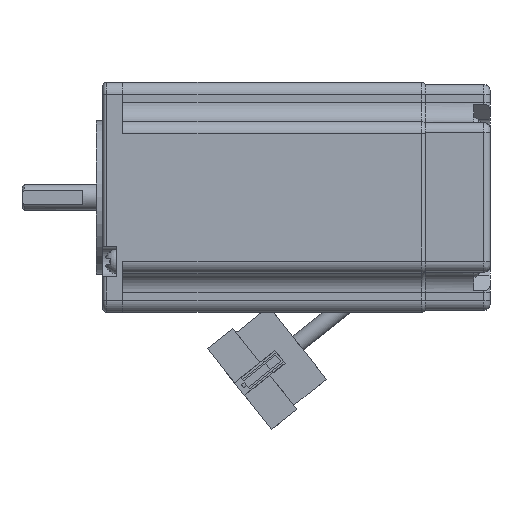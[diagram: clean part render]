
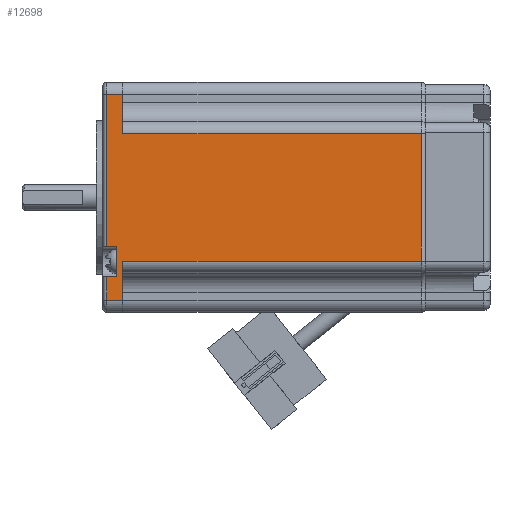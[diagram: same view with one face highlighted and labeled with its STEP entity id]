
A CAD part, front view. The second image highlights one B-rep face of the part: STEP entity #12698.
In plain terms, the highlighted planar face has unit normal (0, -1, 0).
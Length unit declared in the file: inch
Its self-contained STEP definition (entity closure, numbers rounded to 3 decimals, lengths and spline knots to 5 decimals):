
#356=FACE_OUTER_BOUND('',#3722,.T.);
#1246=LINE('',#19190,#2423);
#1247=LINE('',#19194,#2424);
#1248=LINE('',#19196,#2425);
#1249=LINE('',#19198,#2426);
#1250=LINE('',#19200,#2427);
#1251=LINE('',#19202,#2428);
#1252=LINE('',#19204,#2429);
#1253=LINE('',#19206,#2430);
#1254=LINE('',#19208,#2431);
#1255=LINE('',#19210,#2432);
#1256=LINE('',#19212,#2433);
#1257=LINE('',#19213,#2434);
#2423=VECTOR('',#15168,2.91339);
#2424=VECTOR('',#15173,1.24173);
#2425=VECTOR('',#15174,2.91339);
#2426=VECTOR('',#15175,0.38307);
#2427=VECTOR('',#15176,0.15748);
#2428=VECTOR('',#15177,1.48425);
#2429=VECTOR('',#15178,0.09843);
#2430=VECTOR('',#15179,0.29134);
#2431=VECTOR('',#15180,0.09843);
#2432=VECTOR('',#15181,0.23228);
#2433=VECTOR('',#15182,0.15748);
#2434=VECTOR('',#15183,0.38307);
#3722=EDGE_LOOP('',(#8590,#8591,#8592,#8593,#8594,#8595,#8596,#8597,#8598,
#8599,#8600,#8601));
#5381=VERTEX_POINT('',#19187);
#5382=VERTEX_POINT('',#19189);
#5383=VERTEX_POINT('',#19193);
#5384=VERTEX_POINT('',#19195);
#5385=VERTEX_POINT('',#19197);
#5386=VERTEX_POINT('',#19199);
#5387=VERTEX_POINT('',#19201);
#5388=VERTEX_POINT('',#19203);
#5389=VERTEX_POINT('',#19205);
#5390=VERTEX_POINT('',#19207);
#5391=VERTEX_POINT('',#19209);
#5392=VERTEX_POINT('',#19211);
#6663=EDGE_CURVE('',#5381,#5382,#1246,.T.);
#6665=EDGE_CURVE('',#5381,#5383,#1247,.T.);
#6666=EDGE_CURVE('',#5383,#5384,#1248,.T.);
#6667=EDGE_CURVE('',#5384,#5385,#1249,.T.);
#6668=EDGE_CURVE('',#5385,#5386,#1250,.T.);
#6669=EDGE_CURVE('',#5386,#5387,#1251,.T.);
#6670=EDGE_CURVE('',#5387,#5388,#1252,.T.);
#6671=EDGE_CURVE('',#5388,#5389,#1253,.T.);
#6672=EDGE_CURVE('',#5389,#5390,#1254,.T.);
#6673=EDGE_CURVE('',#5390,#5391,#1255,.T.);
#6674=EDGE_CURVE('',#5391,#5392,#1256,.T.);
#6675=EDGE_CURVE('',#5392,#5382,#1257,.T.);
#8590=ORIENTED_EDGE('',*,*,#6663,.F.);
#8591=ORIENTED_EDGE('',*,*,#6665,.T.);
#8592=ORIENTED_EDGE('',*,*,#6666,.T.);
#8593=ORIENTED_EDGE('',*,*,#6667,.T.);
#8594=ORIENTED_EDGE('',*,*,#6668,.T.);
#8595=ORIENTED_EDGE('',*,*,#6669,.T.);
#8596=ORIENTED_EDGE('',*,*,#6670,.T.);
#8597=ORIENTED_EDGE('',*,*,#6671,.T.);
#8598=ORIENTED_EDGE('',*,*,#6672,.T.);
#8599=ORIENTED_EDGE('',*,*,#6673,.T.);
#8600=ORIENTED_EDGE('',*,*,#6674,.T.);
#8601=ORIENTED_EDGE('',*,*,#6675,.T.);
#12164=PLANE('',#13548);
#12698=ADVANCED_FACE('',(#356),#12164,.T.);
#13548=AXIS2_PLACEMENT_3D('',#19192,#15171,#15172);
#15168=DIRECTION('',(-1.,0.,0.));
#15171=DIRECTION('center_axis',(0.,-1.,0.));
#15172=DIRECTION('ref_axis',(-1.,0.,0.));
#15173=DIRECTION('',(0.,0.,1.));
#15174=DIRECTION('',(-1.,0.,0.));
#15175=DIRECTION('',(0.,0.,1.));
#15176=DIRECTION('',(-1.,0.,0.));
#15177=DIRECTION('',(0.,0.,-1.));
#15178=DIRECTION('',(1.,0.,0.));
#15179=DIRECTION('',(0.,0.,-1.));
#15180=DIRECTION('',(-1.,0.,0.));
#15181=DIRECTION('',(0.,0.,-1.));
#15182=DIRECTION('',(1.,0.,0.));
#15183=DIRECTION('',(0.,0.,1.));
#19187=CARTESIAN_POINT('',(3.09167,-2.24409,0.50118));
#19189=CARTESIAN_POINT('',(0.17829,-2.24409,0.50118));
#19190=CARTESIAN_POINT('',(0.17829,-2.24409,0.50118));
#19192=CARTESIAN_POINT('Origin',(3.17041,-2.24409,0.));
#19193=CARTESIAN_POINT('',(3.09167,-2.24409,1.74291));
#19194=CARTESIAN_POINT('',(3.09167,-2.24409,0.));
#19195=CARTESIAN_POINT('',(0.17829,-2.24409,1.74291));
#19196=CARTESIAN_POINT('',(3.17041,-2.24409,1.74291));
#19197=CARTESIAN_POINT('',(0.17829,-2.24409,2.12598));
#19198=CARTESIAN_POINT('',(0.17829,-2.24409,0.));
#19199=CARTESIAN_POINT('',(0.02081,-2.24409,2.12598));
#19200=CARTESIAN_POINT('',(3.17041,-2.24409,2.12598));
#19201=CARTESIAN_POINT('',(0.02081,-2.24409,0.64173));
#19202=CARTESIAN_POINT('',(0.02081,-2.24409,0.));
#19203=CARTESIAN_POINT('',(0.11923,-2.24409,0.64173));
#19204=CARTESIAN_POINT('',(3.17041,-2.24409,0.64173));
#19205=CARTESIAN_POINT('',(0.11923,-2.24409,0.35039));
#19206=CARTESIAN_POINT('',(0.11923,-2.24409,0.));
#19207=CARTESIAN_POINT('',(0.02081,-2.24409,0.35039));
#19208=CARTESIAN_POINT('',(3.17041,-2.24409,0.35039));
#19209=CARTESIAN_POINT('',(0.02081,-2.24409,0.11811));
#19210=CARTESIAN_POINT('',(0.02081,-2.24409,0.));
#19211=CARTESIAN_POINT('',(0.17829,-2.24409,0.11811));
#19212=CARTESIAN_POINT('',(3.17041,-2.24409,0.11811));
#19213=CARTESIAN_POINT('',(0.17829,-2.24409,0.));
